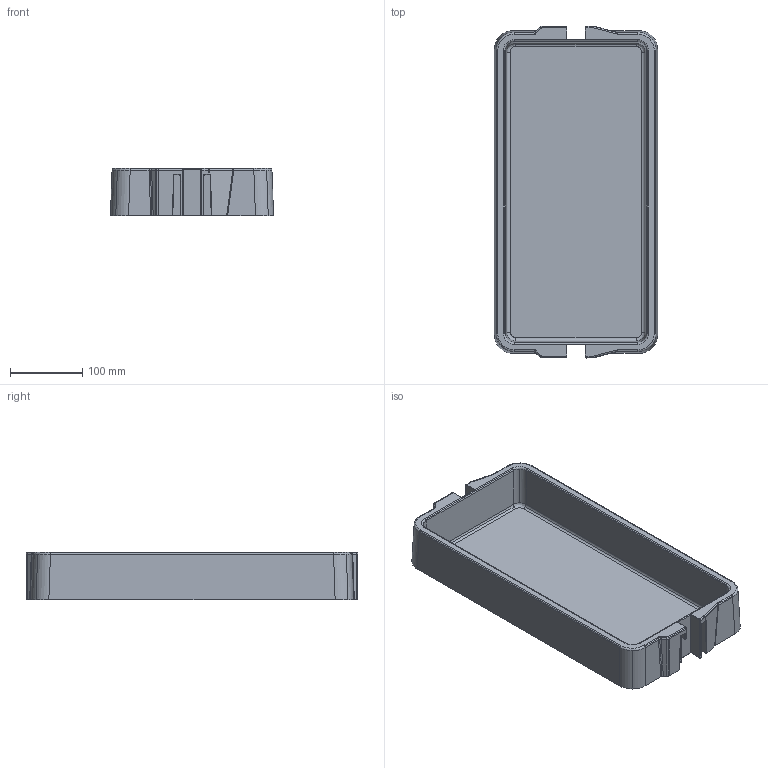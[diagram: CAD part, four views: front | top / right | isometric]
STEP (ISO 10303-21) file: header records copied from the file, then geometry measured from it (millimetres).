
FILE_DESCRIPTION(('STEP AP242'),'1');
FILE_NAME('OPO_53.154.31.stp','2026-01-27T03:53:18',(' '),(' '),'Spatial InterOp 3D',' ',' ');
FILE_SCHEMA(('AP242_MANAGED_MODEL_BASED_3D_ENGINEERING_MIM_LF {1 0 10303 442 1 1 4}'));
Length unit declared in the file: millimetre
Products named in the file (1): 1
Bounding box: 225 x 458 x 65 mm (x, y, z)
Volume: 1379688.9 mm3; surface area: 357703.3 mm2
Topology: 1 solids, 1 shells, 316 faces, 828 edges, 510 vertices
Faces by surface type: cylinder 184, plane 72, bspline 31, torus 27, sphere 2
Entity records: 16478 total; most frequent: CARTESIAN_POINT 5992, DIRECTION 1796, ORIENTED_EDGE 1636, EDGE_CURVE 818, AXIS2_PLACEMENT_3D 712, VERTEX_POINT 510, LINE 372, VECTOR 372
